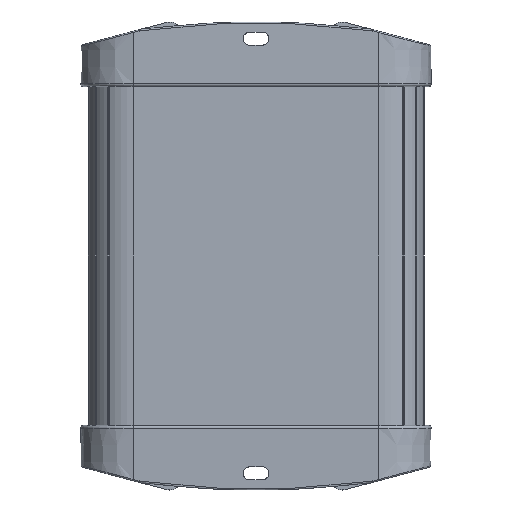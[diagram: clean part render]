
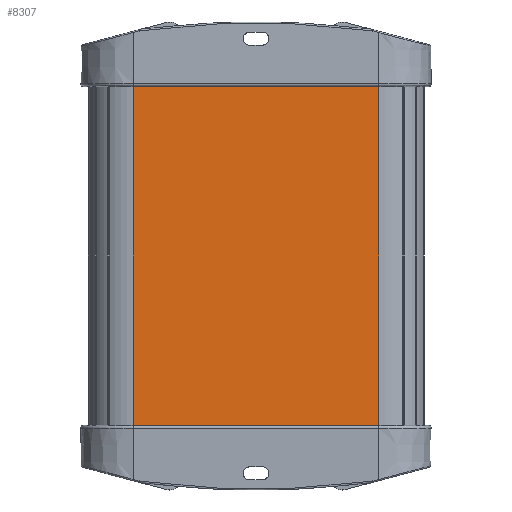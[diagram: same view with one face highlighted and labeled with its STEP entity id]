
A CAD part, front view. The second image highlights one B-rep face of the part: STEP entity #8307.
In plain terms, the highlighted planar face has unit normal (0, -1, 0).
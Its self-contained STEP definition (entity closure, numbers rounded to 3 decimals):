
#122 = LINE ( 'NONE', #5406, #1549 ) ;
#705 = EDGE_CURVE ( 'NONE', #6313, #6180, #5116, .T. ) ;
#749 = AXIS2_PLACEMENT_3D ( 'NONE', #1320, #7313, #8549 ) ;
#1320 = CARTESIAN_POINT ( 'NONE',  ( -47.5, -17.5, -75. ) ) ;
#1529 = CARTESIAN_POINT ( 'NONE',  ( -47.5, -17.5, -75. ) ) ;
#1549 = VECTOR ( 'NONE', #2804, 1000. ) ;
#1797 = VECTOR ( 'NONE', #7096, 1000. ) ;
#2319 = EDGE_CURVE ( 'NONE', #7603, #3425, #5800, .T. ) ;
#2702 = CARTESIAN_POINT ( 'NONE',  ( 47.5, -17.5, 75. ) ) ;
#2804 = DIRECTION ( 'NONE',  ( 1., 0., 0. ) ) ;
#3121 = EDGE_CURVE ( 'NONE', #6180, #3425, #122, .T. ) ;
#3124 = ORIENTED_EDGE ( 'NONE', *, *, #705, .F. ) ;
#3425 = VERTEX_POINT ( 'NONE', #2702 ) ;
#3595 = ORIENTED_EDGE ( 'NONE', *, *, #3121, .F. ) ;
#4654 = CARTESIAN_POINT ( 'NONE',  ( -47.5, -17.5, -75. ) ) ;
#4945 = VECTOR ( 'NONE', #7559, 1000. ) ;
#5013 = CARTESIAN_POINT ( 'NONE',  ( 47.5, -17.5, -75. ) ) ;
#5116 = LINE ( 'NONE', #5717, #1797 ) ;
#5406 = CARTESIAN_POINT ( 'NONE',  ( -47.5, -17.5, 75. ) ) ;
#5531 = CARTESIAN_POINT ( 'NONE',  ( 47.5, -17.5, -75. ) ) ;
#5695 = CARTESIAN_POINT ( 'NONE',  ( -47.5, -17.5, 75. ) ) ;
#5717 = CARTESIAN_POINT ( 'NONE',  ( -47.5, -17.5, -75. ) ) ;
#5800 = LINE ( 'NONE', #5013, #6330 ) ;
#5901 = PLANE ( 'NONE',  #749 ) ;
#6180 = VERTEX_POINT ( 'NONE', #5695 ) ;
#6221 = LINE ( 'NONE', #1529, #4945 ) ;
#6313 = VERTEX_POINT ( 'NONE', #4654 ) ;
#6330 = VECTOR ( 'NONE', #7639, 1000. ) ;
#6656 = ORIENTED_EDGE ( 'NONE', *, *, #2319, .T. ) ;
#6799 = EDGE_LOOP ( 'NONE', ( #3595, #3124, #8164, #6656 ) ) ;
#7096 = DIRECTION ( 'NONE',  ( 0., 0., 1. ) ) ;
#7275 = FACE_OUTER_BOUND ( 'NONE', #6799, .T. ) ;
#7313 = DIRECTION ( 'NONE',  ( 0., -1., 0. ) ) ;
#7559 = DIRECTION ( 'NONE',  ( 1., 0., 0. ) ) ;
#7603 = VERTEX_POINT ( 'NONE', #5531 ) ;
#7639 = DIRECTION ( 'NONE',  ( 0., 0., 1. ) ) ;
#8164 = ORIENTED_EDGE ( 'NONE', *, *, #8450, .T. ) ;
#8307 = ADVANCED_FACE ( 'NONE', ( #7275 ), #5901, .T. ) ;
#8450 = EDGE_CURVE ( 'NONE', #6313, #7603, #6221, .T. ) ;
#8549 = DIRECTION ( 'NONE',  ( 0., 0., -1. ) ) ;
